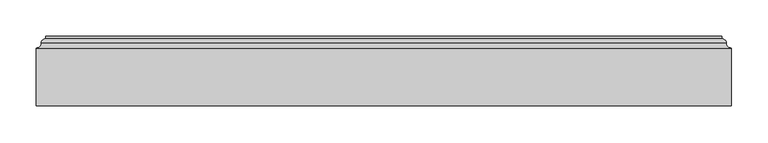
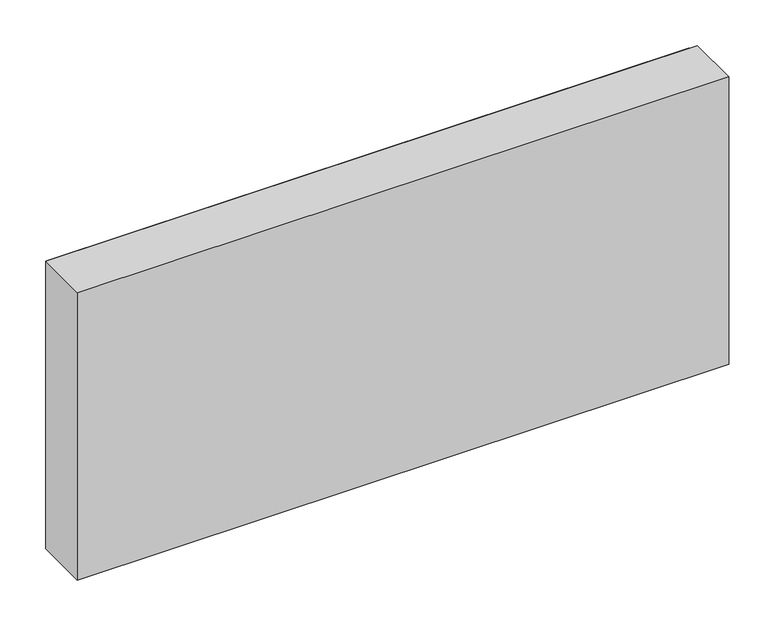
"""IFC4 building model written with IfcOpenShell, lengths in millimetres: proxy geometry, CAMBRIDGE^TABLE 2_4884 Rect-BASE SOLID."""

from ifc_helpers import new_model, si_unit, frame, origin, place, context, project, spatial, polyline, ellipse_curve, source, transform, mapped, element, save
from ifc_brep_helpers import plane_surface, cylinder_surface, revolved_surface, advanced_brep


def generic_models_770b066f(model_context):
    return source(origin(), model_context, "Body", "AdvancedBrep", [
        advanced_brep(
        [(1530.35, -615.95, -400.05), (1530.35, -615.95, -819.15), (603.25, -615.95, -819.15), (603.25, -615.95, -400.05), (1543.05, -711.2, -387.35), (590.55, -711.2, -387.35), (590.55, -711.2, -831.85), (1543.05, -711.2, -831.85), (1543.05, -631.825, -831.85), (1536.7, -625.475, -825.5), (1536.7, -625.475, -393.7), (1543.05, -631.825, -387.35), (1530.35, -619.125, -819.15), (1530.35, -619.125, -400.05), (590.55, -631.825, -831.85), (596.9, -625.475, -825.5), (603.25, -619.125, -819.15), (590.55, -631.825, -387.35), (596.9, -625.475, -393.7), (603.25, -619.125, -400.05)],
        [
            (0, 1),
            (1, 2),
            (2, 3),
            (3, 0),
            (4, 5),
            (5, 6),
            (6, 7),
            (7, 4),
            (8, 9, ellipse_curve(frame((1543.05, -625.475, -831.85), z_axis=(-0.7071067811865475, 0.0, -0.7071067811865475), x_axis=(-0.7071067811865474, 0.0, 0.7071067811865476)), 8.9802561, 6.35)),
            (9, 10),
            (10, 11, ellipse_curve(frame((1543.05, -625.475, -387.35), z_axis=(-0.7071067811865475, 0.0, 0.7071067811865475), x_axis=(0.7071067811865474, 0.0, 0.7071067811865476)), 8.9802561, 6.35)),
            (11, 8),
            (9, 12, ellipse_curve(frame((1530.35, -625.475, -819.15), z_axis=(0.7071067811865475, 0.0, 0.7071067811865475), x_axis=(-0.7071067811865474, 0.0, 0.7071067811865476)), 8.9802561, 6.35)),
            (12, 13),
            (13, 10, ellipse_curve(frame((1530.35, -625.475, -400.05), z_axis=(0.7071067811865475, 0.0, -0.7071067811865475), x_axis=(0.7071067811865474, 0.0, 0.7071067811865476)), 8.9802561, 6.35)),
            (12, 1),
            (0, 13),
            (14, 15, ellipse_curve(frame((590.55, -625.475, -831.85), z_axis=(-0.7071067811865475, 0.0, 0.7071067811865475), x_axis=(0.7071067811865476, 0.0, 0.7071067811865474)), 8.9802561, 6.35)),
            (15, 9),
            (8, 14),
            (15, 16, ellipse_curve(frame((603.25, -625.475, -819.15), z_axis=(0.7071067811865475, 0.0, -0.7071067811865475), x_axis=(0.7071067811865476, 0.0, 0.7071067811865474)), 8.9802561, 6.35)),
            (16, 12),
            (16, 2),
            (17, 18, ellipse_curve(frame((590.55, -625.475, -387.35), z_axis=(0.7071067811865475, 0.0, 0.7071067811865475), x_axis=(0.7071067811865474, 0.0, -0.7071067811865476)), 8.9802561, 6.35)),
            (18, 15),
            (14, 17),
            (18, 19, ellipse_curve(frame((603.25, -625.475, -400.05), z_axis=(-0.7071067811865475, 0.0, -0.7071067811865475), x_axis=(0.7071067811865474, 0.0, -0.7071067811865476)), 8.9802561, 6.35)),
            (19, 16),
            (19, 3),
            (10, 18),
            (17, 11),
            (13, 19),
            (17, 5),
            (4, 11),
            (14, 6),
            (8, 7),
        ],
        [
            plane_surface(frame((1066.8, -615.95, -609.6), z_axis=(0.0, 1.0, 0.0), x_axis=(0.0, 0.0, 1.0))),
            plane_surface(frame((1066.8, -711.2, -609.6), z_axis=(0.0, -1.0, 0.0), x_axis=(0.0, 0.0, -1.0))),
            revolved_surface(polyline([(1549.3999999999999, -625.475, -381.00000001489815), (1549.3999999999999, -625.475, -838.1999999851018)]), (1543.05, -625.475, -831.85), (0.0, 0.0, 1.0)),
            cylinder_surface(frame((1530.35, -625.475, -819.15), z_axis=(0.0, 0.0, 1.0), x_axis=(1.0, 0.0, 0.0)), 6.35),
            plane_surface(frame((1530.35, -615.95, -819.15), z_axis=(1.0, 0.0, 0.0), x_axis=(0.0, -1.0, 0.0))),
            revolved_surface(polyline([(1549.3999999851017, -625.475, -838.2), (584.2000000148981, -625.475, -838.2)]), (590.55, -625.475, -831.85), (1.0, 0.0, 0.0)),
            cylinder_surface(frame((603.25, -625.475, -819.15), z_axis=(1.0, 0.0, 0.0), x_axis=(0.0, 0.0, -1.0)), 6.35),
            plane_surface(frame((603.25, -615.95, -819.15), z_axis=(0.0, 0.0, -1.0), x_axis=(0.0, -1.0, 0.0))),
            revolved_surface(polyline([(584.1999999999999, -625.475, -838.1999999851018), (584.1999999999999, -625.475, -381.00000001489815)]), (590.55, -625.475, -387.35), (0.0, 0.0, -1.0)),
            cylinder_surface(frame((603.25, -625.475, -400.05), z_axis=(0.0, 0.0, -1.0), x_axis=(-1.0, 0.0, 0.0)), 6.35),
            plane_surface(frame((603.25, -615.95, -400.05), z_axis=(-1.0, 0.0, 0.0), x_axis=(0.0, -1.0, 0.0))),
            revolved_surface(polyline([(584.2000000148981, -631.825, -387.35), (1549.3999999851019, -631.825, -387.35)]), (1543.05, -625.475, -387.35), (-1.0, 0.0, 0.0)),
            cylinder_surface(frame((1543.05, -625.475, -400.05), z_axis=(-1.0, 0.0, 0.0), x_axis=(0.0, -1.0, 0.0)), 6.35),
            plane_surface(frame((1543.05, -615.95, -400.05), z_axis=(0.0, 0.0, 1.0), x_axis=(0.0, -1.0, 0.0))),
            plane_surface(frame((590.55, -711.2, -387.35), z_axis=(0.0, 0.0, 1.0), x_axis=(1.0, 0.0, 0.0))),
            plane_surface(frame((590.55, -711.2, -831.85), z_axis=(-1.0, 0.0, 0.0), x_axis=(0.0, 0.0, 1.0))),
            plane_surface(frame((1543.05, -711.2, -831.85), z_axis=(0.0, 0.0, -1.0), x_axis=(-1.0, 0.0, 0.0))),
            plane_surface(frame((1543.05, -711.2, -387.35), z_axis=(1.0, 0.0, 0.0), x_axis=(0.0, 0.0, -1.0))),
        ],
        [
            (0, [[1, 2, 3, 4]]),
            (1, [[5, 6, 7, 8]]),
            (2, [[9, 10, 11, 12]]),
            (3, [[13, 14, 15, -10]]),
            (4, [[16, -1, 17, -14]]),
            (5, [[18, 19, -9, 20]]),
            (6, [[21, 22, -13, -19]]),
            (7, [[23, -2, -16, -22]]),
            (8, [[24, 25, -18, 26]]),
            (9, [[27, 28, -21, -25]]),
            (10, [[29, -3, -23, -28]]),
            (11, [[-11, 30, -24, 31]]),
            (12, [[-15, 32, -27, -30]]),
            (13, [[-17, -4, -29, -32]]),
            (14, [[-31, 33, -5, 34]]),
            (15, [[-26, 35, -6, -33]]),
            (16, [[-20, 36, -7, -35]]),
            (17, [[-12, -34, -8, -36]]),
        ],
    ),
    ])


if __name__ == "__main__":
    model = new_model("IFC4")
    model_context = context("Model", 3, world=origin())
    ifc_project = project(units=[si_unit("LENGTHUNIT", "METRE", prefix="MILLI")], contexts=[model_context])
    site = spatial("IfcSite", under=ifc_project)
    building = spatial("IfcBuilding", under=site)
    placement = place(None, origin())
    generic_models_shape = generic_models_770b066f(model_context)
    element("IfcBuildingElementProxy", 1, Name="CAMBRIDGE^TABLE 2_4884 Rect-BASE SOLID", ObjectType="CAMBRIDGE^TABLE 2_4884 Rect-BASE SOLID", at=placement, inside=building, context=model_context, shape_type="MappedRepresentation", body=[
        mapped(generic_models_shape, transform((0.0, 0.0, 0.0), x_axis=(1.0, 0.0, 0.0), y_axis=(0.0, 1.0, 0.0), z_axis=(0.0, 0.0, 1.0))),
    ])
    save(model, "model.ifc")
